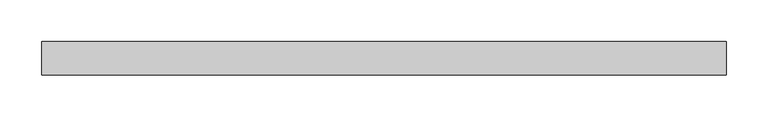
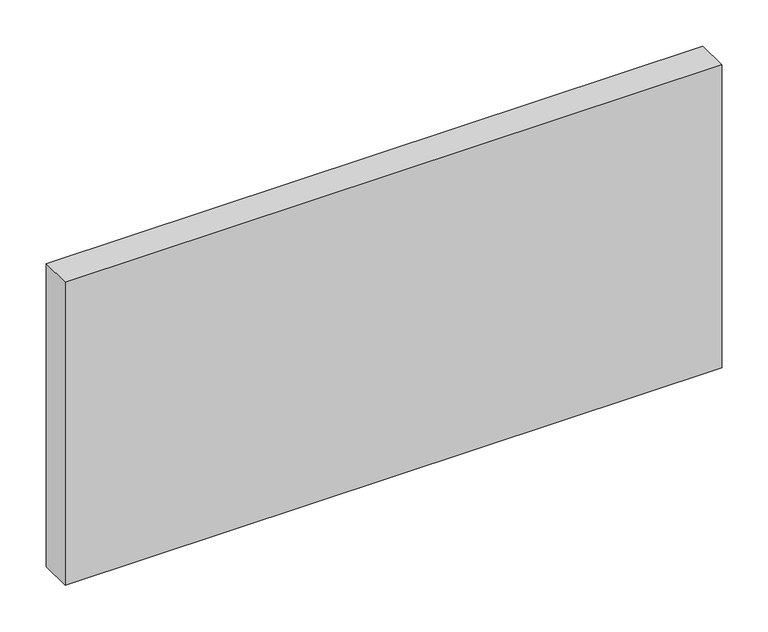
"""IFC4 building model written with IfcOpenShell, lengths in millimetres: plate geometry, Panneau système vide : Epaiss. 4cm."""

from ifc_helpers import new_model, si_unit, origin, origin_with_axes, place, context, project, spatial, polyline, outline, extrude, source, transform, mapped, element, save


def plate_99da462b(model_context):
    return source(origin(), model_context, "Body", "SweptSolid", [
        extrude(outline(polyline([(408.15, -20.0), (-408.15, -20.0), (-408.15, 20.0), (408.15, 20.0), (408.15, -20.0)])), origin_with_axes(), (0.0, 0.0, 1.0), 398.0),
    ])


if __name__ == "__main__":
    model = new_model("IFC4")
    model_context = context("Model", 3, world=origin())
    ifc_project = project(units=[si_unit("LENGTHUNIT", "METRE", prefix="MILLI")], contexts=[model_context])
    site = spatial("IfcSite", under=ifc_project)
    building = spatial("IfcBuilding", under=site)
    placement = place(None, origin())
    plate_shape = plate_99da462b(model_context)
    element("IfcPlate", 1, ObjectType="Panneau système vide : Epaiss. 4cm", at=placement, inside=building, context=model_context, shape_type="MappedRepresentation", body=[
        mapped(plate_shape, transform((0.0, 0.0, 0.0), x_axis=(1.0, 0.0, 0.0), y_axis=(0.0, 1.0, 0.0), z_axis=(0.0, 0.0, 1.0))),
    ])
    save(model, "model.ifc")
